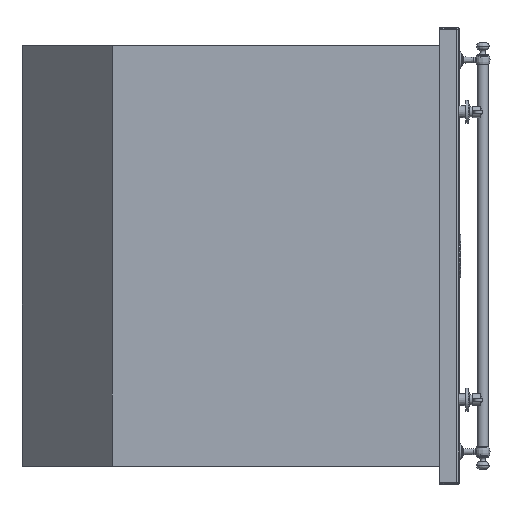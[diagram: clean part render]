
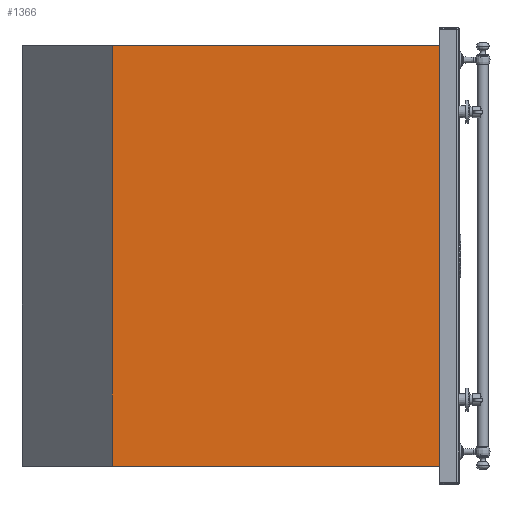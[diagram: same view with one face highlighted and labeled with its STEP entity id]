
A CAD part, top view. The second image highlights one B-rep face of the part: STEP entity #1366.
In plain terms, the highlighted planar face has unit normal (0, 0, 1).
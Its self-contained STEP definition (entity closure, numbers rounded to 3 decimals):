
#1366=ADVANCED_FACE('',(#1800),#1567,.T.);
#1567=PLANE('',#6254);
#1800=FACE_OUTER_BOUND('',#2244,.T.);
#2244=EDGE_LOOP('',(#3561,#3562,#3563,#3564));
#3561=ORIENTED_EDGE('',*,*,#4872,.F.);
#3562=ORIENTED_EDGE('',*,*,#4873,.F.);
#3563=ORIENTED_EDGE('',*,*,#4874,.T.);
#3564=ORIENTED_EDGE('',*,*,#4875,.T.);
#4187=VERTEX_POINT('',#11556);
#4188=VERTEX_POINT('',#11557);
#4189=VERTEX_POINT('',#11559);
#4190=VERTEX_POINT('',#11561);
#4872=EDGE_CURVE('',#4187,#4188,#5288,.T.);
#4873=EDGE_CURVE('',#4189,#4187,#5289,.T.);
#4874=EDGE_CURVE('',#4189,#4190,#5290,.T.);
#4875=EDGE_CURVE('',#4190,#4188,#5291,.T.);
#5288=LINE('',#11555,#5664);
#5289=LINE('',#11558,#5665);
#5290=LINE('',#11560,#5666);
#5291=LINE('',#11562,#5667);
#5664=VECTOR('',#7776,1.);
#5665=VECTOR('',#7777,1.);
#5666=VECTOR('',#7778,1.);
#5667=VECTOR('',#7779,1.);
#6254=AXIS2_PLACEMENT_3D('',#11563,#7780,#7781);
#7776=DIRECTION('',(-1.,0.,0.));
#7777=DIRECTION('',(0.,-1.,0.));
#7778=DIRECTION('',(-1.,0.,0.));
#7779=DIRECTION('',(0.,-1.,0.));
#7780=DIRECTION('',(0.,0.,1.));
#7781=DIRECTION('',(1.,0.,0.));
#11555=CARTESIAN_POINT('',(548.,0.,442.));
#11556=CARTESIAN_POINT('',(548.,0.,442.));
#11557=CARTESIAN_POINT('',(118.,0.,442.));
#11558=CARTESIAN_POINT('',(548.,550.,442.));
#11559=CARTESIAN_POINT('',(548.,550.,442.));
#11560=CARTESIAN_POINT('',(548.,550.,442.));
#11561=CARTESIAN_POINT('',(118.,550.,442.));
#11562=CARTESIAN_POINT('',(118.,550.,442.));
#11563=CARTESIAN_POINT('',(548.,550.,442.));
